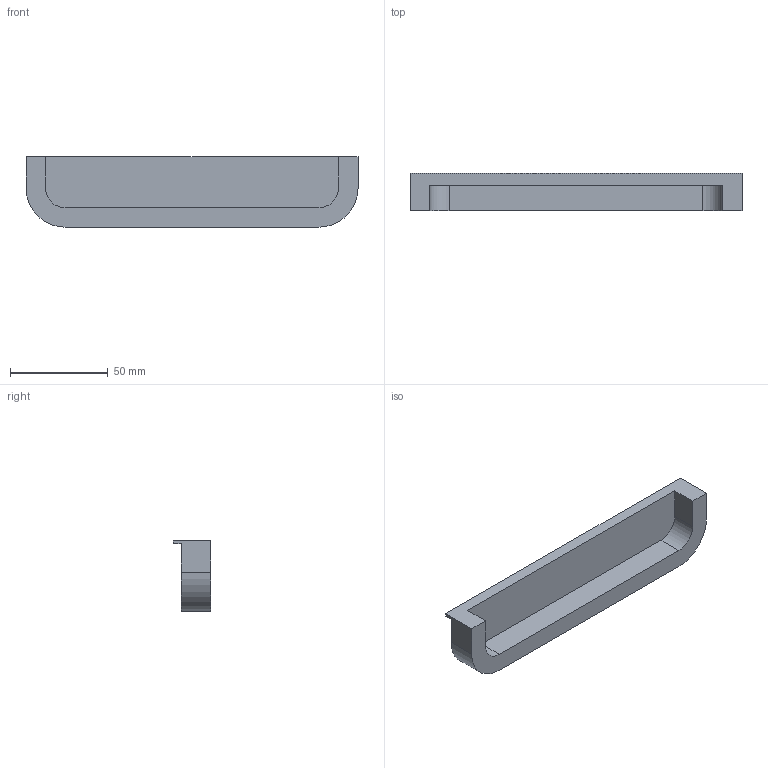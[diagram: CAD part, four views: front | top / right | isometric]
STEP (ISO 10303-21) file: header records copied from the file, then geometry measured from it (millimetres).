
FILE_DESCRIPTION( ( '' ), '1' );
FILE_NAME( 'C:/Documents and Settings/Sachin/Desktop/Sheet 10_1/stp/9065425.stp', '2013-10-22T05:44:30', ( '' ), ( '' ), ' ', ' ', ' ' );
FILE_SCHEMA( ( 'CONFIG_CONTROL_DESIGN' ) );
Length unit declared in the file: millimetre
Products named in the file (1): 1
Bounding box: 170 x 19 x 36 mm (x, y, z)
Volume: 39901.7 mm3; surface area: 19956.6 mm2
Topology: 1 solids, 1 shells, 22 faces, 54 edges, 36 vertices
Faces by surface type: plane 14, cylinder 8
Entity records: 698 total; most frequent: DIRECTION 116, CARTESIAN_POINT 113, ORIENTED_EDGE 108, EDGE_CURVE 54, AXIS2_PLACEMENT_3D 39, LINE 38, VECTOR 38, VERTEX_POINT 36
